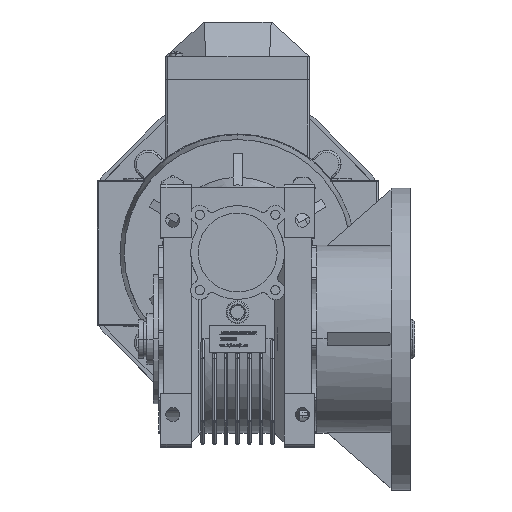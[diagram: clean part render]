
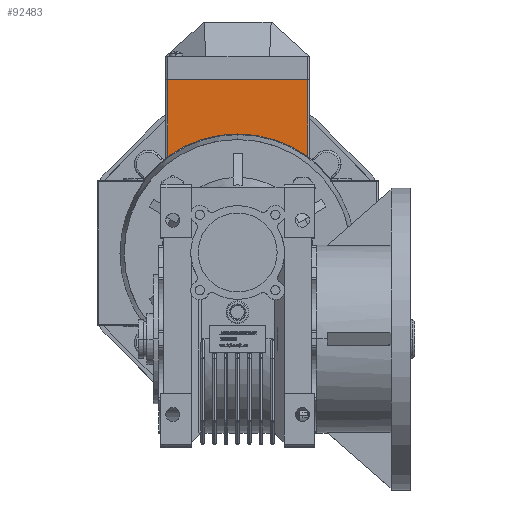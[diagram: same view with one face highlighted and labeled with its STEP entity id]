
A CAD part, top view. The second image highlights one B-rep face of the part: STEP entity #92483.
In plain terms, the highlighted planar face has unit normal (0, 0, 1).
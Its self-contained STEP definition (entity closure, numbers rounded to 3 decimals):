
#588 = FACE_BOUND ( 'NONE', #41312, .T. ) ;
#666 = CARTESIAN_POINT ( 'NONE',  ( 0., 0., 0. ) ) ;
#2619 = LINE ( 'NONE', #27526, #110560 ) ;
#2814 = CARTESIAN_POINT ( 'NONE',  ( -39.834, 33.425, 0. ) ) ;
#2939 = EDGE_CURVE ( 'NONE', #74511, #41243, #5340, .T. ) ;
#2976 = DIRECTION ( 'NONE',  ( 0., -1., 0. ) ) ;
#3128 = EDGE_CURVE ( 'NONE', #25767, #36239, #37173, .T. ) ;
#3478 = EDGE_CURVE ( 'NONE', #32200, #84862, #89657, .T. ) ;
#5340 = LINE ( 'NONE', #72519, #114692 ) ;
#6626 = CARTESIAN_POINT ( 'NONE',  ( 0., 0., 0. ) ) ;
#8056 = ORIENTED_EDGE ( 'NONE', *, *, #67664, .F. ) ;
#8453 = EDGE_CURVE ( 'NONE', #9384, #13673, #104013, .T. ) ;
#8489 = AXIS2_PLACEMENT_3D ( 'NONE', #70444, #17446, #26716 ) ;
#9384 = VERTEX_POINT ( 'NONE', #13949 ) ;
#10527 = EDGE_CURVE ( 'NONE', #44158, #34433, #49912, .T. ) ;
#11489 = LINE ( 'NONE', #12316, #76589 ) ;
#12316 = CARTESIAN_POINT ( 'NONE',  ( 32.425, 0., 0. ) ) ;
#13105 = CARTESIAN_POINT ( 'NONE',  ( -32.425, 80.25, 0. ) ) ;
#13673 = VERTEX_POINT ( 'NONE', #96679 ) ;
#13691 = AXIS2_PLACEMENT_3D ( 'NONE', #6626, #24426, #51497 ) ;
#13949 = CARTESIAN_POINT ( 'NONE',  ( -39.834, -33.425, 0. ) ) ;
#14351 = VECTOR ( 'NONE', #44998, 1000. ) ;
#17446 = DIRECTION ( 'NONE',  ( 0., 0., -1. ) ) ;
#17888 = LINE ( 'NONE', #34969, #14351 ) ;
#18052 = CARTESIAN_POINT ( 'NONE',  ( -32.425, 40.652, 0. ) ) ;
#18468 = ORIENTED_EDGE ( 'NONE', *, *, #3128, .T. ) ;
#18862 = DIRECTION ( 'NONE',  ( 0., 0., -1. ) ) ;
#20121 = AXIS2_PLACEMENT_3D ( 'NONE', #28401, #47355, #108100 ) ;
#20457 = EDGE_LOOP ( 'NONE', ( #79189, #38318, #91948, #8056, #49306, #69914, #67120, #74589, #93432, #63182, #112676, #70909 ) ) ;
#24426 = DIRECTION ( 'NONE',  ( 0., 0., 1. ) ) ;
#24541 = AXIS2_PLACEMENT_3D ( 'NONE', #55085, #46164, #80945 ) ;
#25767 = VERTEX_POINT ( 'NONE', #98992 ) ;
#26716 = DIRECTION ( 'NONE',  ( 0., 1., 0. ) ) ;
#26883 = CARTESIAN_POINT ( 'NONE',  ( 32.425, 80.25, 0. ) ) ;
#27133 = PLANE ( 'NONE',  #13691 ) ;
#27464 = VERTEX_POINT ( 'NONE', #95504 ) ;
#27526 = CARTESIAN_POINT ( 'NONE',  ( -39.834, -33.425, 0. ) ) ;
#28401 = CARTESIAN_POINT ( 'NONE',  ( 0., 0., 0. ) ) ;
#29364 = DIRECTION ( 'NONE',  ( 0., 1., 0. ) ) ;
#32033 = EDGE_CURVE ( 'NONE', #36239, #25767, #49454, .T. ) ;
#32200 = VERTEX_POINT ( 'NONE', #13105 ) ;
#33968 = CARTESIAN_POINT ( 'NONE',  ( 65., -33.425, 0. ) ) ;
#34433 = VERTEX_POINT ( 'NONE', #112442 ) ;
#34969 = CARTESIAN_POINT ( 'NONE',  ( 65., 33.425, 0. ) ) ;
#35328 = VECTOR ( 'NONE', #67977, 1000. ) ;
#36045 = DIRECTION ( 'NONE',  ( -1., 0., 0. ) ) ;
#36239 = VERTEX_POINT ( 'NONE', #107646 ) ;
#37173 = CIRCLE ( 'NONE', #56352, 7.35 ) ;
#38040 = DIRECTION ( 'NONE',  ( 1., 0., 0. ) ) ;
#38318 = ORIENTED_EDGE ( 'NONE', *, *, #83821, .T. ) ;
#39236 = CIRCLE ( 'NONE', #20121, 52. ) ;
#40903 = VERTEX_POINT ( 'NONE', #57561 ) ;
#41243 = VERTEX_POINT ( 'NONE', #89203 ) ;
#41312 = EDGE_LOOP ( 'NONE', ( #18468, #68342 ) ) ;
#41416 = DIRECTION ( 'NONE',  ( 1., 0., 0. ) ) ;
#44158 = VERTEX_POINT ( 'NONE', #18052 ) ;
#44998 = DIRECTION ( 'NONE',  ( 0., 1., 0. ) ) ;
#45563 = VERTEX_POINT ( 'NONE', #33968 ) ;
#46164 = DIRECTION ( 'NONE',  ( 0., 0., 1. ) ) ;
#46925 = VECTOR ( 'NONE', #2976, 1000. ) ;
#47355 = DIRECTION ( 'NONE',  ( 0., 0., 1. ) ) ;
#49306 = ORIENTED_EDGE ( 'NONE', *, *, #90601, .F. ) ;
#49454 = CIRCLE ( 'NONE', #8489, 7.35 ) ;
#49912 = CIRCLE ( 'NONE', #24541, 52. ) ;
#49940 = CARTESIAN_POINT ( 'NONE',  ( 32.425, 40.652, 0. ) ) ;
#51497 = DIRECTION ( 'NONE',  ( 1., 0., 0. ) ) ;
#53592 = DIRECTION ( 'NONE',  ( -1., 0., 0. ) ) ;
#55085 = CARTESIAN_POINT ( 'NONE',  ( 0., 0., 0. ) ) ;
#55575 = VECTOR ( 'NONE', #41416, 1000. ) ;
#56352 = AXIS2_PLACEMENT_3D ( 'NONE', #666, #18862, #89646 ) ;
#57561 = CARTESIAN_POINT ( 'NONE',  ( -65., 33.425, 0. ) ) ;
#58123 = CARTESIAN_POINT ( 'NONE',  ( 39.834, -33.425, 0. ) ) ;
#61248 = VERTEX_POINT ( 'NONE', #49940 ) ;
#61962 = DIRECTION ( 'NONE',  ( 1., 0., 0. ) ) ;
#63182 = ORIENTED_EDGE ( 'NONE', *, *, #2939, .T. ) ;
#67120 = ORIENTED_EDGE ( 'NONE', *, *, #8453, .T. ) ;
#67664 = EDGE_CURVE ( 'NONE', #40903, #34433, #103917, .T. ) ;
#67977 = DIRECTION ( 'NONE',  ( 0., 1., 0. ) ) ;
#68172 = CARTESIAN_POINT ( 'NONE',  ( 65., 33.425, 0. ) ) ;
#68342 = ORIENTED_EDGE ( 'NONE', *, *, #32033, .T. ) ;
#69914 = ORIENTED_EDGE ( 'NONE', *, *, #110861, .F. ) ;
#70444 = CARTESIAN_POINT ( 'NONE',  ( 0., 0., 0. ) ) ;
#70909 = ORIENTED_EDGE ( 'NONE', *, *, #110337, .T. ) ;
#71068 = EDGE_CURVE ( 'NONE', #45563, #74511, #17888, .T. ) ;
#72519 = CARTESIAN_POINT ( 'NONE',  ( 39.834, 33.425, 0. ) ) ;
#73978 = FACE_OUTER_BOUND ( 'NONE', #20457, .T. ) ;
#74511 = VERTEX_POINT ( 'NONE', #68172 ) ;
#74589 = ORIENTED_EDGE ( 'NONE', *, *, #79955, .T. ) ;
#76589 = VECTOR ( 'NONE', #29364, 1000. ) ;
#77813 = EDGE_CURVE ( 'NONE', #41243, #61248, #39236, .T. ) ;
#79068 = LINE ( 'NONE', #58123, #55575 ) ;
#79189 = ORIENTED_EDGE ( 'NONE', *, *, #3478, .F. ) ;
#79955 = EDGE_CURVE ( 'NONE', #13673, #45563, #79068, .T. ) ;
#80945 = DIRECTION ( 'NONE',  ( 1., 0., 0. ) ) ;
#81284 = VECTOR ( 'NONE', #61962, 1000. ) ;
#83676 = AXIS2_PLACEMENT_3D ( 'NONE', #100542, #109108, #92422 ) ;
#83821 = EDGE_CURVE ( 'NONE', #32200, #44158, #84322, .T. ) ;
#84322 = LINE ( 'NONE', #100077, #46925 ) ;
#84862 = VERTEX_POINT ( 'NONE', #26883 ) ;
#89203 = CARTESIAN_POINT ( 'NONE',  ( 39.834, 33.425, 0. ) ) ;
#89646 = DIRECTION ( 'NONE',  ( 0., 1., 0. ) ) ;
#89657 = LINE ( 'NONE', #96678, #81284 ) ;
#90601 = EDGE_CURVE ( 'NONE', #27464, #40903, #108711, .T. ) ;
#91948 = ORIENTED_EDGE ( 'NONE', *, *, #10527, .T. ) ;
#92422 = DIRECTION ( 'NONE',  ( 1., 0., 0. ) ) ;
#92483 = ADVANCED_FACE ( 'NONE', ( #73978, #588 ), #27133, .T. ) ;
#93432 = ORIENTED_EDGE ( 'NONE', *, *, #71068, .T. ) ;
#93851 = CARTESIAN_POINT ( 'NONE',  ( -65., 33.425, 0. ) ) ;
#95504 = CARTESIAN_POINT ( 'NONE',  ( -65., -33.425, 0. ) ) ;
#96678 = CARTESIAN_POINT ( 'NONE',  ( -33.425, 80.25, 0. ) ) ;
#96679 = CARTESIAN_POINT ( 'NONE',  ( 39.834, -33.425, 0. ) ) ;
#98992 = CARTESIAN_POINT ( 'NONE',  ( 0., 7.35, 0. ) ) ;
#100077 = CARTESIAN_POINT ( 'NONE',  ( -32.425, 0., 0. ) ) ;
#100542 = CARTESIAN_POINT ( 'NONE',  ( 0., 0., 0. ) ) ;
#101115 = VECTOR ( 'NONE', #38040, 1000. ) ;
#103917 = LINE ( 'NONE', #2814, #101115 ) ;
#104013 = CIRCLE ( 'NONE', #83676, 52. ) ;
#107646 = CARTESIAN_POINT ( 'NONE',  ( 0., -7.35, 0. ) ) ;
#108100 = DIRECTION ( 'NONE',  ( 1., 0., 0. ) ) ;
#108711 = LINE ( 'NONE', #93851, #35328 ) ;
#109108 = DIRECTION ( 'NONE',  ( 0., 0., 1. ) ) ;
#110337 = EDGE_CURVE ( 'NONE', #61248, #84862, #11489, .T. ) ;
#110560 = VECTOR ( 'NONE', #36045, 1000. ) ;
#110861 = EDGE_CURVE ( 'NONE', #9384, #27464, #2619, .T. ) ;
#112442 = CARTESIAN_POINT ( 'NONE',  ( -39.834, 33.425, 0. ) ) ;
#112676 = ORIENTED_EDGE ( 'NONE', *, *, #77813, .T. ) ;
#114692 = VECTOR ( 'NONE', #53592, 1000. ) ;
